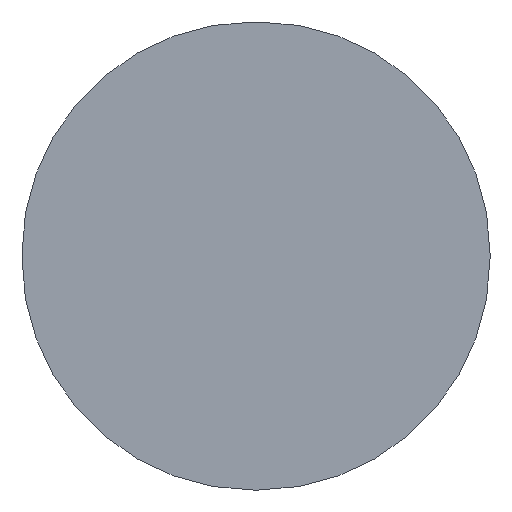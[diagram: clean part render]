
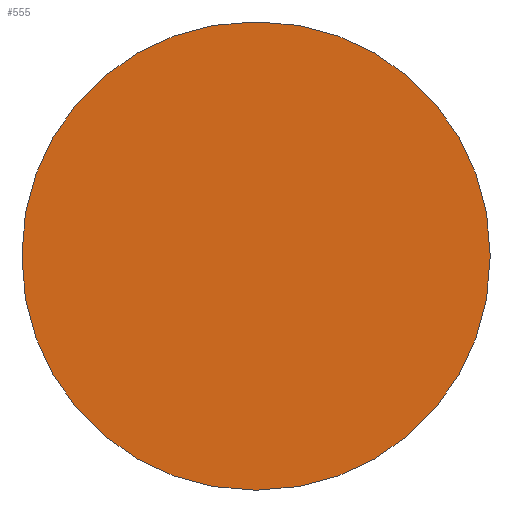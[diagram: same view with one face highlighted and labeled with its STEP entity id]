
A CAD part, left-side view. The second image highlights one B-rep face of the part: STEP entity #555.
In plain terms, the highlighted planar face has unit normal (-1, 0, 0).
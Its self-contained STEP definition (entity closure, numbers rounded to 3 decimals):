
#32 = PLANE('',#33);
#33 = AXIS2_PLACEMENT_3D('',#34,#35,#36);
#34 = CARTESIAN_POINT('',(43.2,-8.,8.));
#35 = DIRECTION('',(0.,0.,-1.));
#36 = DIRECTION('',(1.,0.,0.));
#57 = VERTEX_POINT('',#58);
#58 = CARTESIAN_POINT('',(43.2,-0.1,8.));
#72 = CYLINDRICAL_SURFACE('',#73,7.9);
#73 = AXIS2_PLACEMENT_3D('',#74,#75,#76);
#74 = CARTESIAN_POINT('',(43.2,-0.1,0.1));
#75 = DIRECTION('',(1.,0.,0.));
#76 = DIRECTION('',(0.,0.,1.));
#84 = EDGE_CURVE('',#57,#85,#87,.T.);
#85 = VERTEX_POINT('',#86);
#86 = CARTESIAN_POINT('',(43.2,0.1,8.));
#87 = SURFACE_CURVE('',#88,(#92,#99),.PCURVE_S1.);
#88 = LINE('',#89,#90);
#89 = CARTESIAN_POINT('',(43.2,-8.,8.));
#90 = VECTOR('',#91,1.);
#91 = DIRECTION('',(0.,1.,0.));
#92 = PCURVE('',#32,#93);
#93 = DEFINITIONAL_REPRESENTATION('',(#94),#98);
#94 = LINE('',#95,#96);
#95 = CARTESIAN_POINT('',(0.,0.));
#96 = VECTOR('',#97,1.);
#97 = DIRECTION('',(0.,-1.));
#98 = ( GEOMETRIC_REPRESENTATION_CONTEXT(2) 
PARAMETRIC_REPRESENTATION_CONTEXT() REPRESENTATION_CONTEXT('2D SPACE',''
  ) );
#99 = PCURVE('',#100,#105);
#100 = PLANE('',#101);
#101 = AXIS2_PLACEMENT_3D('',#102,#103,#104);
#102 = CARTESIAN_POINT('',(43.2,-8.,8.));
#103 = DIRECTION('',(1.,0.,0.));
#104 = DIRECTION('',(0.,0.,-1.));
#105 = DEFINITIONAL_REPRESENTATION('',(#106),#110);
#106 = LINE('',#107,#108);
#107 = CARTESIAN_POINT('',(0.,0.));
#108 = VECTOR('',#109,1.);
#109 = DIRECTION('',(0.,1.));
#110 = ( GEOMETRIC_REPRESENTATION_CONTEXT(2) 
PARAMETRIC_REPRESENTATION_CONTEXT() REPRESENTATION_CONTEXT('2D SPACE',''
  ) );
#126 = CYLINDRICAL_SURFACE('',#127,7.9);
#127 = AXIS2_PLACEMENT_3D('',#128,#129,#130);
#128 = CARTESIAN_POINT('',(43.2,0.1,0.1));
#129 = DIRECTION('',(1.,0.,0.));
#130 = DIRECTION('',(0.,0.,1.));
#182 = PLANE('',#183);
#183 = AXIS2_PLACEMENT_3D('',#184,#185,#186);
#184 = CARTESIAN_POINT('',(43.2,-8.,8.));
#185 = DIRECTION('',(0.,1.,0.));
#186 = DIRECTION('',(1.,-0.,0.));
#215 = CYLINDRICAL_SURFACE('',#216,7.9);
#216 = AXIS2_PLACEMENT_3D('',#217,#218,#219);
#217 = CARTESIAN_POINT('',(43.2,-0.1,-0.1));
#218 = DIRECTION('',(1.,0.,0.));
#219 = DIRECTION('',(0.,0.,-1.));
#243 = PLANE('',#244);
#244 = AXIS2_PLACEMENT_3D('',#245,#246,#247);
#245 = CARTESIAN_POINT('',(43.2,-8.,-8.));
#246 = DIRECTION('',(0.,0.,-1.));
#247 = DIRECTION('',(1.,0.,0.));
#272 = CYLINDRICAL_SURFACE('',#273,7.9);
#273 = AXIS2_PLACEMENT_3D('',#274,#275,#276);
#274 = CARTESIAN_POINT('',(43.2,0.1,-0.1));
#275 = DIRECTION('',(1.,0.,0.));
#276 = DIRECTION('',(0.,0.,-1.));
#300 = PLANE('',#301);
#301 = AXIS2_PLACEMENT_3D('',#302,#303,#304);
#302 = CARTESIAN_POINT('',(43.2,8.,8.));
#303 = DIRECTION('',(0.,1.,0.));
#304 = DIRECTION('',(1.,-0.,0.));
#455 = EDGE_CURVE('',#57,#456,#458,.T.);
#456 = VERTEX_POINT('',#457);
#457 = CARTESIAN_POINT('',(43.2,-8.,0.1));
#458 = SURFACE_CURVE('',#459,(#464,#471),.PCURVE_S1.);
#459 = CIRCLE('',#460,7.9);
#460 = AXIS2_PLACEMENT_3D('',#461,#462,#463);
#461 = CARTESIAN_POINT('',(43.2,-0.1,0.1));
#462 = DIRECTION('',(1.,0.,0.));
#463 = DIRECTION('',(0.,-1.,0.));
#464 = PCURVE('',#72,#465);
#465 = DEFINITIONAL_REPRESENTATION('',(#466),#470);
#466 = LINE('',#467,#468);
#467 = CARTESIAN_POINT('',(-4.712,0.));
#468 = VECTOR('',#469,1.);
#469 = DIRECTION('',(1.,0.));
#470 = ( GEOMETRIC_REPRESENTATION_CONTEXT(2) 
PARAMETRIC_REPRESENTATION_CONTEXT() REPRESENTATION_CONTEXT('2D SPACE',''
  ) );
#471 = PCURVE('',#100,#472);
#472 = DEFINITIONAL_REPRESENTATION('',(#473),#477);
#473 = CIRCLE('',#474,7.9);
#474 = AXIS2_PLACEMENT_2D('',#475,#476);
#475 = CARTESIAN_POINT('',(7.9,7.9));
#476 = DIRECTION('',(0.,-1.));
#477 = ( GEOMETRIC_REPRESENTATION_CONTEXT(2) 
PARAMETRIC_REPRESENTATION_CONTEXT() REPRESENTATION_CONTEXT('2D SPACE',''
  ) );
#508 = VERTEX_POINT('',#509);
#509 = CARTESIAN_POINT('',(43.2,8.,0.1));
#530 = EDGE_CURVE('',#85,#508,#531,.T.);
#531 = SURFACE_CURVE('',#532,(#537,#544),.PCURVE_S1.);
#532 = CIRCLE('',#533,7.9);
#533 = AXIS2_PLACEMENT_3D('',#534,#535,#536);
#534 = CARTESIAN_POINT('',(43.2,0.1,0.1));
#535 = DIRECTION('',(-1.,-0.,0.));
#536 = DIRECTION('',(0.,-1.,0.));
#537 = PCURVE('',#126,#538);
#538 = DEFINITIONAL_REPRESENTATION('',(#539),#543);
#539 = LINE('',#540,#541);
#540 = CARTESIAN_POINT('',(7.854,0.));
#541 = VECTOR('',#542,1.);
#542 = DIRECTION('',(-1.,0.));
#543 = ( GEOMETRIC_REPRESENTATION_CONTEXT(2) 
PARAMETRIC_REPRESENTATION_CONTEXT() REPRESENTATION_CONTEXT('2D SPACE',''
  ) );
#544 = PCURVE('',#100,#545);
#545 = DEFINITIONAL_REPRESENTATION('',(#546),#554);
#546 = ( BOUNDED_CURVE() B_SPLINE_CURVE(2,(#547,#548,#549,#550,#551,#552
,#553),.UNSPECIFIED.,.T.,.F.) B_SPLINE_CURVE_WITH_KNOTS((1,2,2,2,2,1),(
    -2.094,0.,2.094,4.189,6.283,
8.378),.UNSPECIFIED.) CURVE() GEOMETRIC_REPRESENTATION_ITEM() 
RATIONAL_B_SPLINE_CURVE((1.,0.5,1.,0.5,1.,0.5,1.)) REPRESENTATION_ITEM(
  '') );
#547 = CARTESIAN_POINT('',(7.9,0.2));
#548 = CARTESIAN_POINT('',(-5.783,0.2));
#549 = CARTESIAN_POINT('',(1.058,12.05));
#550 = CARTESIAN_POINT('',(7.9,23.9));
#551 = CARTESIAN_POINT('',(14.742,12.05));
#552 = CARTESIAN_POINT('',(21.583,0.2));
#553 = CARTESIAN_POINT('',(7.9,0.2));
#554 = ( GEOMETRIC_REPRESENTATION_CONTEXT(2) 
PARAMETRIC_REPRESENTATION_CONTEXT() REPRESENTATION_CONTEXT('2D SPACE',''
  ) );
#555 = ADVANCED_FACE('',(#556),#100,.F.);
#556 = FACE_BOUND('',#557,.F.);
#557 = EDGE_LOOP('',(#558,#559,#560,#583,#611,#634,#658,#679));
#558 = ORIENTED_EDGE('',*,*,#84,.F.);
#559 = ORIENTED_EDGE('',*,*,#455,.T.);
#560 = ORIENTED_EDGE('',*,*,#561,.T.);
#561 = EDGE_CURVE('',#456,#562,#564,.T.);
#562 = VERTEX_POINT('',#563);
#563 = CARTESIAN_POINT('',(43.2,-8.,-0.1));
#564 = SURFACE_CURVE('',#565,(#569,#576),.PCURVE_S1.);
#565 = LINE('',#566,#567);
#566 = CARTESIAN_POINT('',(43.2,-8.,8.));
#567 = VECTOR('',#568,1.);
#568 = DIRECTION('',(0.,0.,-1.));
#569 = PCURVE('',#100,#570);
#570 = DEFINITIONAL_REPRESENTATION('',(#571),#575);
#571 = LINE('',#572,#573);
#572 = CARTESIAN_POINT('',(0.,0.));
#573 = VECTOR('',#574,1.);
#574 = DIRECTION('',(1.,0.));
#575 = ( GEOMETRIC_REPRESENTATION_CONTEXT(2) 
PARAMETRIC_REPRESENTATION_CONTEXT() REPRESENTATION_CONTEXT('2D SPACE',''
  ) );
#576 = PCURVE('',#182,#577);
#577 = DEFINITIONAL_REPRESENTATION('',(#578),#582);
#578 = LINE('',#579,#580);
#579 = CARTESIAN_POINT('',(0.,0.));
#580 = VECTOR('',#581,1.);
#581 = DIRECTION('',(0.,1.));
#582 = ( GEOMETRIC_REPRESENTATION_CONTEXT(2) 
PARAMETRIC_REPRESENTATION_CONTEXT() REPRESENTATION_CONTEXT('2D SPACE',''
  ) );
#583 = ORIENTED_EDGE('',*,*,#584,.F.);
#584 = EDGE_CURVE('',#585,#562,#587,.T.);
#585 = VERTEX_POINT('',#586);
#586 = CARTESIAN_POINT('',(43.2,-0.1,-8.));
#587 = SURFACE_CURVE('',#588,(#593,#604),.PCURVE_S1.);
#588 = CIRCLE('',#589,7.9);
#589 = AXIS2_PLACEMENT_3D('',#590,#591,#592);
#590 = CARTESIAN_POINT('',(43.2,-0.1,-0.1));
#591 = DIRECTION('',(-1.,-0.,0.));
#592 = DIRECTION('',(0.,-1.,0.));
#593 = PCURVE('',#100,#594);
#594 = DEFINITIONAL_REPRESENTATION('',(#595),#603);
#595 = ( BOUNDED_CURVE() B_SPLINE_CURVE(2,(#596,#597,#598,#599,#600,#601
,#602),.UNSPECIFIED.,.T.,.F.) B_SPLINE_CURVE_WITH_KNOTS((1,2,2,2,2,1),(
    -2.094,0.,2.094,4.189,6.283,
8.378),.UNSPECIFIED.) CURVE() GEOMETRIC_REPRESENTATION_ITEM() 
RATIONAL_B_SPLINE_CURVE((1.,0.5,1.,0.5,1.,0.5,1.)) REPRESENTATION_ITEM(
  '') );
#596 = CARTESIAN_POINT('',(8.1,0.));
#597 = CARTESIAN_POINT('',(-5.583,0.));
#598 = CARTESIAN_POINT('',(1.258,11.85));
#599 = CARTESIAN_POINT('',(8.1,23.7));
#600 = CARTESIAN_POINT('',(14.942,11.85));
#601 = CARTESIAN_POINT('',(21.783,0.));
#602 = CARTESIAN_POINT('',(8.1,0.));
#603 = ( GEOMETRIC_REPRESENTATION_CONTEXT(2) 
PARAMETRIC_REPRESENTATION_CONTEXT() REPRESENTATION_CONTEXT('2D SPACE',''
  ) );
#604 = PCURVE('',#215,#605);
#605 = DEFINITIONAL_REPRESENTATION('',(#606),#610);
#606 = LINE('',#607,#608);
#607 = CARTESIAN_POINT('',(10.996,0.));
#608 = VECTOR('',#609,1.);
#609 = DIRECTION('',(-1.,0.));
#610 = ( GEOMETRIC_REPRESENTATION_CONTEXT(2) 
PARAMETRIC_REPRESENTATION_CONTEXT() REPRESENTATION_CONTEXT('2D SPACE',''
  ) );
#611 = ORIENTED_EDGE('',*,*,#612,.T.);
#612 = EDGE_CURVE('',#585,#613,#615,.T.);
#613 = VERTEX_POINT('',#614);
#614 = CARTESIAN_POINT('',(43.2,0.1,-8.));
#615 = SURFACE_CURVE('',#616,(#620,#627),.PCURVE_S1.);
#616 = LINE('',#617,#618);
#617 = CARTESIAN_POINT('',(43.2,-8.,-8.));
#618 = VECTOR('',#619,1.);
#619 = DIRECTION('',(0.,1.,0.));
#620 = PCURVE('',#100,#621);
#621 = DEFINITIONAL_REPRESENTATION('',(#622),#626);
#622 = LINE('',#623,#624);
#623 = CARTESIAN_POINT('',(16.,0.));
#624 = VECTOR('',#625,1.);
#625 = DIRECTION('',(0.,1.));
#626 = ( GEOMETRIC_REPRESENTATION_CONTEXT(2) 
PARAMETRIC_REPRESENTATION_CONTEXT() REPRESENTATION_CONTEXT('2D SPACE',''
  ) );
#627 = PCURVE('',#243,#628);
#628 = DEFINITIONAL_REPRESENTATION('',(#629),#633);
#629 = LINE('',#630,#631);
#630 = CARTESIAN_POINT('',(0.,0.));
#631 = VECTOR('',#632,1.);
#632 = DIRECTION('',(0.,-1.));
#633 = ( GEOMETRIC_REPRESENTATION_CONTEXT(2) 
PARAMETRIC_REPRESENTATION_CONTEXT() REPRESENTATION_CONTEXT('2D SPACE',''
  ) );
#634 = ORIENTED_EDGE('',*,*,#635,.T.);
#635 = EDGE_CURVE('',#613,#636,#638,.T.);
#636 = VERTEX_POINT('',#637);
#637 = CARTESIAN_POINT('',(43.2,8.,-0.1));
#638 = SURFACE_CURVE('',#639,(#644,#651),.PCURVE_S1.);
#639 = CIRCLE('',#640,7.9);
#640 = AXIS2_PLACEMENT_3D('',#641,#642,#643);
#641 = CARTESIAN_POINT('',(43.2,0.1,-0.1));
#642 = DIRECTION('',(1.,0.,0.));
#643 = DIRECTION('',(0.,-1.,0.));
#644 = PCURVE('',#100,#645);
#645 = DEFINITIONAL_REPRESENTATION('',(#646),#650);
#646 = CIRCLE('',#647,7.9);
#647 = AXIS2_PLACEMENT_2D('',#648,#649);
#648 = CARTESIAN_POINT('',(8.1,8.1));
#649 = DIRECTION('',(0.,-1.));
#650 = ( GEOMETRIC_REPRESENTATION_CONTEXT(2) 
PARAMETRIC_REPRESENTATION_CONTEXT() REPRESENTATION_CONTEXT('2D SPACE',''
  ) );
#651 = PCURVE('',#272,#652);
#652 = DEFINITIONAL_REPRESENTATION('',(#653),#657);
#653 = LINE('',#654,#655);
#654 = CARTESIAN_POINT('',(-1.571,0.));
#655 = VECTOR('',#656,1.);
#656 = DIRECTION('',(1.,0.));
#657 = ( GEOMETRIC_REPRESENTATION_CONTEXT(2) 
PARAMETRIC_REPRESENTATION_CONTEXT() REPRESENTATION_CONTEXT('2D SPACE',''
  ) );
#658 = ORIENTED_EDGE('',*,*,#659,.F.);
#659 = EDGE_CURVE('',#508,#636,#660,.T.);
#660 = SURFACE_CURVE('',#661,(#665,#672),.PCURVE_S1.);
#661 = LINE('',#662,#663);
#662 = CARTESIAN_POINT('',(43.2,8.,8.));
#663 = VECTOR('',#664,1.);
#664 = DIRECTION('',(0.,0.,-1.));
#665 = PCURVE('',#100,#666);
#666 = DEFINITIONAL_REPRESENTATION('',(#667),#671);
#667 = LINE('',#668,#669);
#668 = CARTESIAN_POINT('',(0.,16.));
#669 = VECTOR('',#670,1.);
#670 = DIRECTION('',(1.,0.));
#671 = ( GEOMETRIC_REPRESENTATION_CONTEXT(2) 
PARAMETRIC_REPRESENTATION_CONTEXT() REPRESENTATION_CONTEXT('2D SPACE',''
  ) );
#672 = PCURVE('',#300,#673);
#673 = DEFINITIONAL_REPRESENTATION('',(#674),#678);
#674 = LINE('',#675,#676);
#675 = CARTESIAN_POINT('',(0.,0.));
#676 = VECTOR('',#677,1.);
#677 = DIRECTION('',(0.,1.));
#678 = ( GEOMETRIC_REPRESENTATION_CONTEXT(2) 
PARAMETRIC_REPRESENTATION_CONTEXT() REPRESENTATION_CONTEXT('2D SPACE',''
  ) );
#679 = ORIENTED_EDGE('',*,*,#530,.F.);
